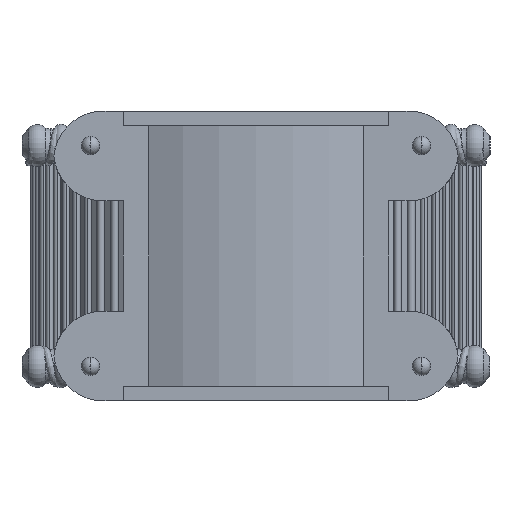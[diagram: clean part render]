
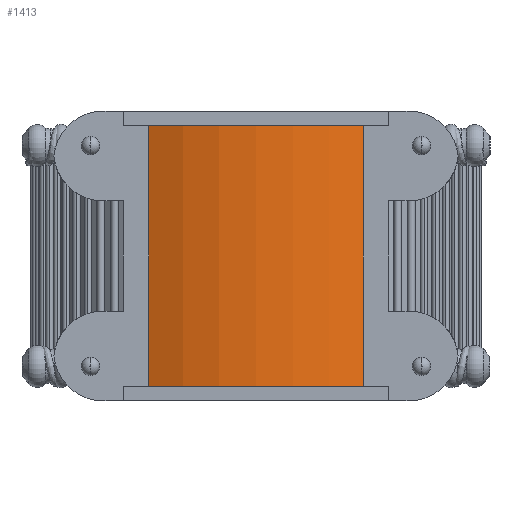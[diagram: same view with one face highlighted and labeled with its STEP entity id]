
A CAD part, front view. The second image highlights one B-rep face of the part: STEP entity #1413.
In plain terms, the highlighted cylindrical face has radius 16.615 mm (diameter 33.23 mm), a partial arc.
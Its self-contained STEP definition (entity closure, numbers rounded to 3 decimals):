
#592 = ORIENTED_EDGE ( 'NONE', *, *, #38227, .T. ) ;
#1413 = ADVANCED_FACE ( 'NONE', ( #37663 ), #18744, .T. ) ;
#2710 = CARTESIAN_POINT ( 'NONE',  ( -7.412, 0., -9. ) ) ;
#3416 = CARTESIAN_POINT ( 'NONE',  ( 7.412, 0., 10. ) ) ;
#6470 = CARTESIAN_POINT ( 'NONE',  ( -7.412, 0., 10. ) ) ;
#7410 = CARTESIAN_POINT ( 'NONE',  ( 7.412, 0., -9. ) ) ;
#8936 = ORIENTED_EDGE ( 'NONE', *, *, #18476, .F. ) ;
#10016 = CARTESIAN_POINT ( 'NONE',  ( 0., 14.87, 10. ) ) ;
#12173 = EDGE_CURVE ( 'NONE', #25974, #36398, #15211, .T. ) ;
#12759 = ORIENTED_EDGE ( 'NONE', *, *, #17580, .T. ) ;
#13558 = DIRECTION ( 'NONE',  ( 0., 0., 1. ) ) ;
#15211 = CIRCLE ( 'NONE', #28849, 16.615 ) ;
#15526 = VECTOR ( 'NONE', #37678, 1000. ) ;
#16158 = CIRCLE ( 'NONE', #16784, 16.615 ) ;
#16521 = LINE ( 'NONE', #3416, #38120 ) ;
#16784 = AXIS2_PLACEMENT_3D ( 'NONE', #34643, #13558, #37677 ) ;
#17451 = DIRECTION ( 'NONE',  ( 0., 0., -1. ) ) ;
#17580 = EDGE_CURVE ( 'NONE', #36398, #44021, #33319, .T. ) ;
#18115 = CARTESIAN_POINT ( 'NONE',  ( 0., 14.87, 9. ) ) ;
#18476 = EDGE_CURVE ( 'NONE', #25974, #37745, #16521, .T. ) ;
#18744 = CYLINDRICAL_SURFACE ( 'NONE', #23703, 16.615 ) ;
#21755 = DIRECTION ( 'NONE',  ( 0., 0., -1. ) ) ;
#23703 = AXIS2_PLACEMENT_3D ( 'NONE', #10016, #34600, #38075 ) ;
#24053 = CARTESIAN_POINT ( 'NONE',  ( 7.412, 0., 9. ) ) ;
#25649 = DIRECTION ( 'NONE',  ( -1., 0., 0. ) ) ;
#25974 = VERTEX_POINT ( 'NONE', #24053 ) ;
#26711 = EDGE_LOOP ( 'NONE', ( #12759, #592, #8936, #33013 ) ) ;
#28849 = AXIS2_PLACEMENT_3D ( 'NONE', #18115, #21755, #25649 ) ;
#33013 = ORIENTED_EDGE ( 'NONE', *, *, #12173, .T. ) ;
#33319 = LINE ( 'NONE', #6470, #15526 ) ;
#34600 = DIRECTION ( 'NONE',  ( 0., 0., -1. ) ) ;
#34643 = CARTESIAN_POINT ( 'NONE',  ( 0., 14.87, -9. ) ) ;
#36398 = VERTEX_POINT ( 'NONE', #40882 ) ;
#37663 = FACE_OUTER_BOUND ( 'NONE', #26711, .T. ) ;
#37677 = DIRECTION ( 'NONE',  ( 1., 0., 0. ) ) ;
#37678 = DIRECTION ( 'NONE',  ( 0., 0., -1. ) ) ;
#37745 = VERTEX_POINT ( 'NONE', #7410 ) ;
#38075 = DIRECTION ( 'NONE',  ( -1., 0., 0. ) ) ;
#38120 = VECTOR ( 'NONE', #17451, 1000. ) ;
#38227 = EDGE_CURVE ( 'NONE', #44021, #37745, #16158, .T. ) ;
#40882 = CARTESIAN_POINT ( 'NONE',  ( -7.412, 0., 9. ) ) ;
#44021 = VERTEX_POINT ( 'NONE', #2710 ) ;
